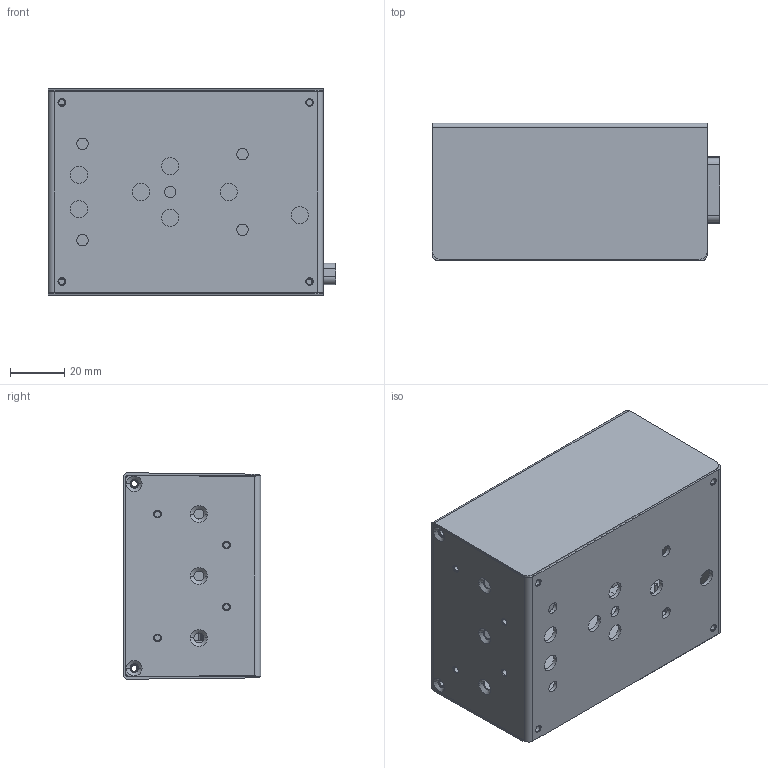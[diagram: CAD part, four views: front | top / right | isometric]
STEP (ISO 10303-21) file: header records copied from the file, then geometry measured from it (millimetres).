
FILE_DESCRIPTION((''),'2;1');
FILE_NAME('ASM_TOP_LEVEL_RIBIDIUM_ASM','2020-05-15T10:19:00',('gaw'),(''),'CREO PARAMETRIC BY PTC INC, 2019471','CREO PARAMETRIC BY PTC INC, 2019471','');
FILE_SCHEMA(('CONFIG_CONTROL_DESIGN'));
Length unit declared in the file: inch
Products named in the file (9): 7-00636-720_CHASSIS_RUBIDIUM; PCB_TOP; PCB_SIDE; 7-00637-720_COVER_RIBIDIUM; TAB_RIBIDIUM_COVER; TAB_RIBIDIUM_COVER1; 7-00637-720_COVER_RIBIDIUM_ASM; CONNECTOR_D_SUB_FEMALE_SPECIAL; ASM_TOP_LEVEL_RIBIDIUM_ASM
Assembly tree (11 placements, depth 3):
  ASM_TOP_LEVEL_RIBIDIUM_ASM
    7-00636-720_CHASSIS_RUBIDIUM
    PCB_TOP
    PCB_SIDE  x2
    7-00637-720_COVER_RIBIDIUM_ASM
      7-00637-720_COVER_RIBIDIUM
      TAB_RIBIDIUM_COVER  x2
      TAB_RIBIDIUM_COVER1  x2
    CONNECTOR_D_SUB_FEMALE_SPECIAL
Bounding box: 106.27 x 50.8 x 76.2 mm (x, y, z)
Volume: 60814.9 mm3; surface area: 97742.1 mm2
Topology: 10 solids, 22 shells, 700 faces, 1888 edges, 1246 vertices
Faces by surface type: cylinder 496, plane 154, cone 30, torus 20
Entity records: 18988 total; most frequent: DIRECTION 3556, CARTESIAN_POINT 3227, ORIENTED_EDGE 2968, EDGE_CURVE 1508, AXIS2_PLACEMENT_3D 1457, VERTEX_POINT 990, EDGE_LOOP 878, CIRCLE 854
